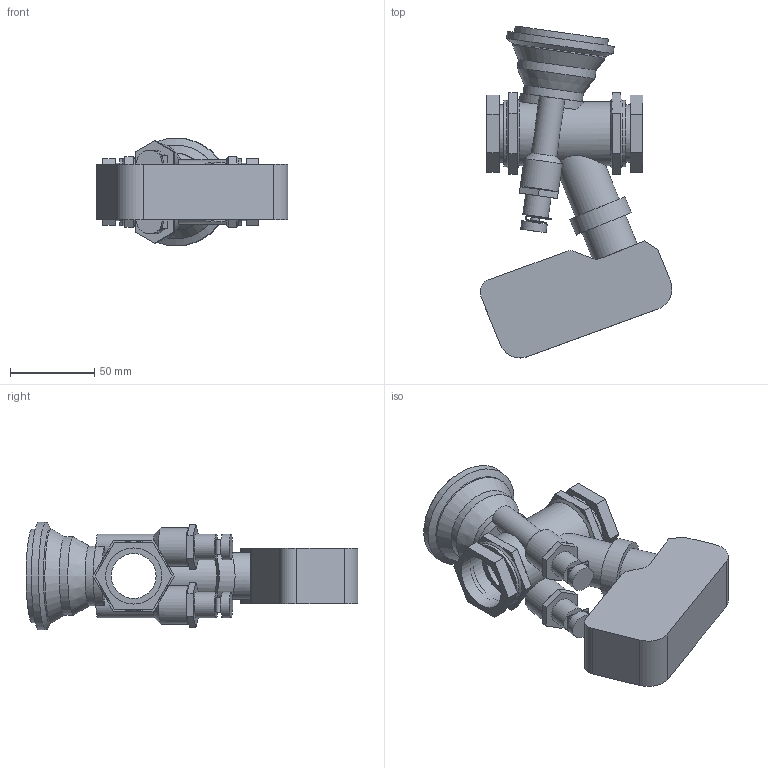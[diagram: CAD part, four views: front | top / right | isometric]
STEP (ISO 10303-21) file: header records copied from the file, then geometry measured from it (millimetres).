
FILE_DESCRIPTION(/* description */ ('VIC BALANCING AND CONTROL VALVE SERIES 7CP (FPT)-TA ACT','CAx-IF Rec.Pracs.---Representation and Presentation of Product Manufacturing Information (PMI)---4.0---2014-10-13'),/* implementation_level */ '2;1');
FILE_NAME(/* name */ 'C:\Users\Vjadhav\AppData\Roaming\Autodesk\ApplicationPlugins\Victaulic.Temp\A633\Victaulic_IPS_Valve Balancing Pressure Independent_TA Series 7CP (FPT)_TA ACT_1 (25).stp',/* time_stamp */ '2021-09-14T20:03:52+06:00',/* author */ ('Vjadhav'),/* organization */ ('Victaulic'),/* preprocessor_version */ 'ST-DEVELOPER v17.2',/* originating_system */ 'Autodesk Inventor 2019',/* authorisation */ '');
FILE_SCHEMA (('AP242_MANAGED_MODEL_BASED_3D_ENGINEERING_MIM_LF { 1 0 10303 442 1 1 4 }'));
Length unit declared in the file: inch
Products named in the file (2): 7CP_TA ACT-01.0; 7CP-01.0
Assembly tree (1 placements, depth 2):
  7CP_TA ACT-01.0
    7CP-01.0
Bounding box: 114.1 x 197.36 x 64.01 mm (x, y, z)
Volume: 345373.6 mm3; surface area: 69836.9 mm2
Topology: 1 solids, 1 shells, 171 faces, 431 edges, 287 vertices
Faces by surface type: plane 118, cylinder 44, cone 9
Full cylindrical faces by diameter (mm): 5.08 x6, 15.24 x6, 22.86 x2, 26.645 x2, 27.94 x2, 33.401 x3, 34.29 x2, 35.352 x1, 35.56 x1, 38.1 x1, 39.624 x2, 46.609 x1, 55.88 x2, 64.008 x1
Entity records: 5694 total; most frequent: CARTESIAN_POINT 1141, DIRECTION 929, ORIENTED_EDGE 862, EDGE_CURVE 431, AXIS2_PLACEMENT_3D 343, VERTEX_POINT 287, LINE 243, VECTOR 243
